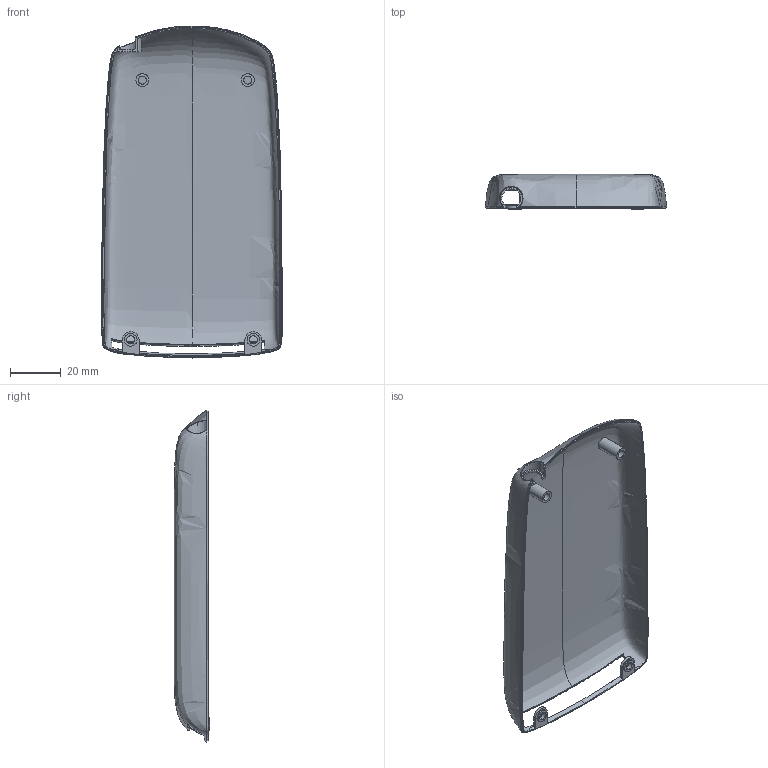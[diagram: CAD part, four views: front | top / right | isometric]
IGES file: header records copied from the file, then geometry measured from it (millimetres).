
Start section:  PTC IGES file: jc_cover_pcmcia_prt.igs
Global section: file name: jc_cover_pcmcia_prt.igs; native system: Pro/ENGINEER by Parametric Technology Corporation; preprocessor: 2000030; author: ECaille; organization: Unknown; date: 000803.092010; units: millimetre
Bounding box: 71.48 x 14.01 x 130.99 mm (x, y, z)
Surface area: 23776.1 mm2 (no closed solid volume)
Topology: 0 solids, 0 shells, 58 faces, 510 edges, 694 vertices
Faces by surface type: bspline 33, revolution 22, extrusion 3
